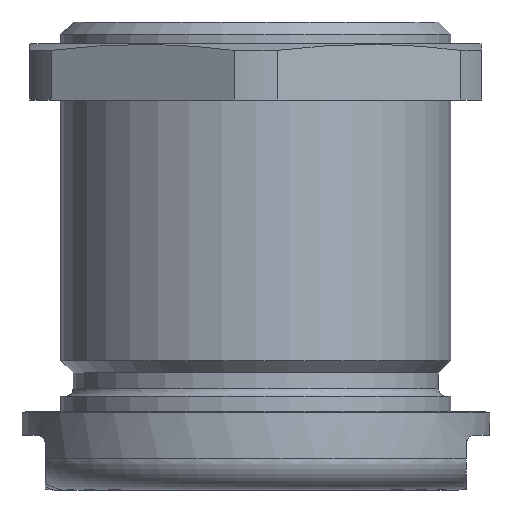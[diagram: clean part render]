
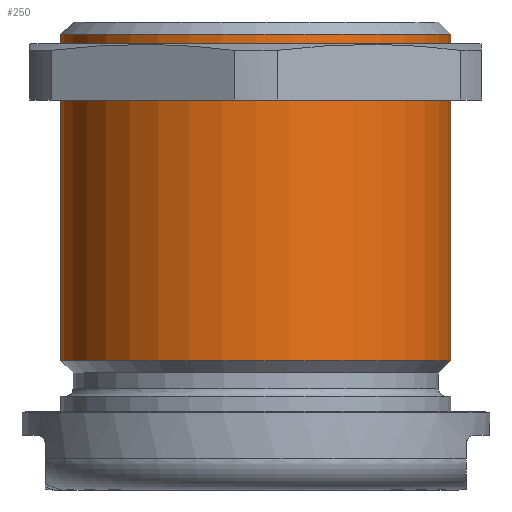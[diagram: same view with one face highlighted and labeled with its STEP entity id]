
A CAD part, front view. The second image highlights one B-rep face of the part: STEP entity #250.
In plain terms, the highlighted cylindrical face has radius 12.5 mm (diameter 25 mm), a full revolution.
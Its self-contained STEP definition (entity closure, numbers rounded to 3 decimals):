
#210=CYLINDRICAL_SURFACE('',#859,12.5);
#250=ADVANCED_FACE('',(#331,#332),#210,.T.);
#331=FACE_BOUND('',#393,.T.);
#332=FACE_BOUND('',#394,.T.);
#393=EDGE_LOOP('',(#479));
#394=EDGE_LOOP('',(#480,#481));
#479=ORIENTED_EDGE('',*,*,#704,.T.);
#480=ORIENTED_EDGE('',*,*,#705,.T.);
#481=ORIENTED_EDGE('',*,*,#706,.T.);
#635=VERTEX_POINT('',#1194);
#636=VERTEX_POINT('',#1197);
#637=VERTEX_POINT('',#1198);
#704=EDGE_CURVE('',#635,#635,#791,.T.);
#705=EDGE_CURVE('',#636,#637,#792,.T.);
#706=EDGE_CURVE('',#637,#636,#793,.T.);
#791=CIRCLE('',#855,12.5);
#792=CIRCLE('',#857,12.5);
#793=CIRCLE('',#858,12.5);
#855=AXIS2_PLACEMENT_3D('',#1193,#986,#987);
#857=AXIS2_PLACEMENT_3D('',#1196,#990,#991);
#858=AXIS2_PLACEMENT_3D('',#1199,#992,#993);
#859=AXIS2_PLACEMENT_3D('',#1200,#994,#995);
#986=DIRECTION('',(0.,0.,-1.));
#987=DIRECTION('',(0.,1.,0.));
#990=DIRECTION('',(0.,0.,1.));
#991=DIRECTION('',(0.,1.,0.));
#992=DIRECTION('',(0.,0.,1.));
#993=DIRECTION('',(-1.,0.,0.));
#994=DIRECTION('',(0.,0.,1.));
#995=DIRECTION('',(0.,1.,0.));
#1193=CARTESIAN_POINT('',(0.,0.,29.2));
#1194=CARTESIAN_POINT('',(0.,12.5,29.2));
#1196=CARTESIAN_POINT('',(0.,0.,8.3));
#1197=CARTESIAN_POINT('',(0.,12.5,8.3));
#1198=CARTESIAN_POINT('',(-12.5,0.,8.3));
#1199=CARTESIAN_POINT('',(0.,0.,8.3));
#1200=CARTESIAN_POINT('',(0.,0.,5.));
